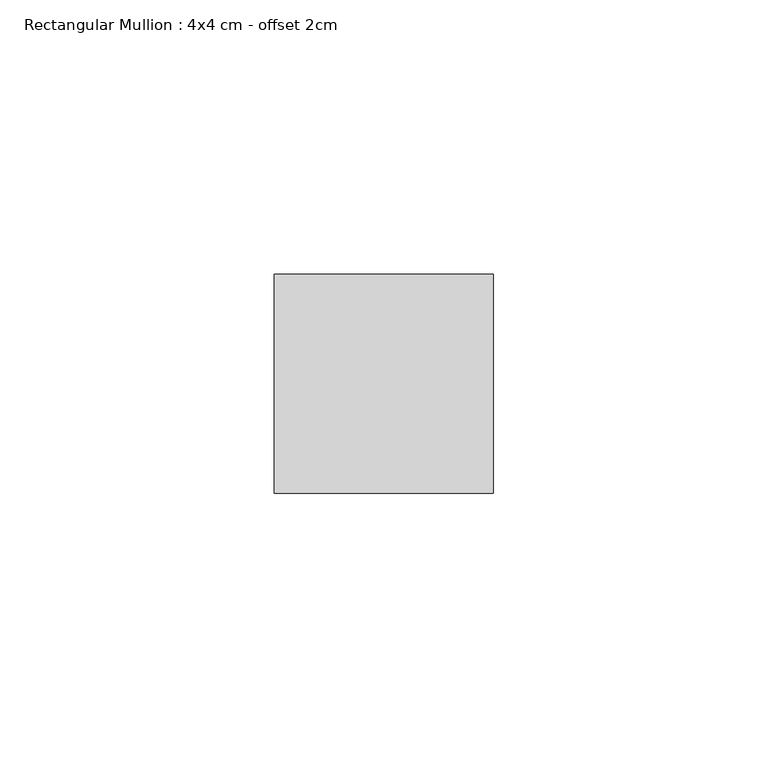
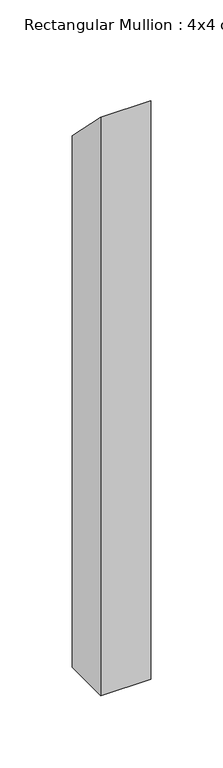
"""IFC4 building model written with IfcOpenShell, lengths in millimetres: member geometry, Rectangular Mullion : 4x4 cm - offset 2cm."""

from ifc_helpers import new_model, si_unit, frame, origin, place, context, project, spatial, polyline, outline, extrude, source, transform, mapped, element, save


def rectangular_mullion_4x4_cm_offset_2cm_4437fab8(model_context):
    return source(origin(), model_context, "Body", "SweptSolid", [
        extrude(outline(polyline([(0.0, 0.0), (40.0, -40.0), (40.0, -489.9999997), (0.0, -489.9999997), (0.0, 0.0)])), frame((-40.0, 0.0, 0.0), z_axis=(1.0, 0.0, 0.0), x_axis=(0.0, 1.0, 0.0)), (0.0, 0.0, 1.0), 40.0),
    ])


if __name__ == "__main__":
    model = new_model("IFC4")
    model_context = context("Model", 3, world=origin())
    ifc_project = project(units=[si_unit("LENGTHUNIT", "METRE", prefix="MILLI")], contexts=[model_context])
    site = spatial("IfcSite", under=ifc_project)
    building = spatial("IfcBuilding", under=site)
    placement = place(None, origin())
    rectangular_mullion_4x4_cm_offset_2cm_shape = rectangular_mullion_4x4_cm_offset_2cm_4437fab8(model_context)
    element("IfcMember", 1, ObjectType="Rectangular Mullion : 4x4 cm - offset 2cm", at=placement, inside=building, context=model_context, shape_type="MappedRepresentation", body=[
        mapped(rectangular_mullion_4x4_cm_offset_2cm_shape, transform((0.0, 0.0, 0.0), x_axis=(1.0, 0.0, 0.0), y_axis=(0.0, 1.0, 0.0), z_axis=(0.0, 0.0, 1.0))),
    ])
    save(model, "model.ifc")
